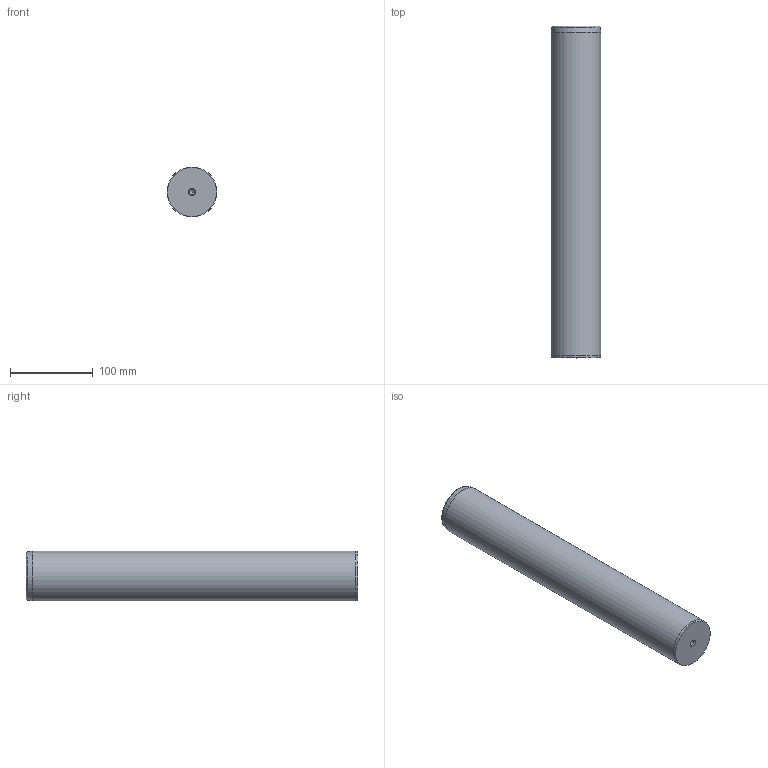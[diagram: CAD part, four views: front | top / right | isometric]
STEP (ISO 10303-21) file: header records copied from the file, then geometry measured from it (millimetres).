
FILE_DESCRIPTION( ( 'STEP AP203' ), '1' );
FILE_NAME( 'D:/Cuma/D14/D14_60400.step', '2003-01-18T23:01:52', ( ' ' ), ( ' ' ), 'XStep 1.0', ' ', ' ' );
FILE_SCHEMA( ( 'CONFIG_CONTROL_DESIGN' ) );
Length unit declared in the file: metre
Products named in the file (1): 1
Bounding box: 60 x 400 x 60 mm (x, y, z)
Volume: 1127941.8 mm3; surface area: 81740.7 mm2
Topology: 1 solids, 1 shells, 14 faces, 29 edges, 17 vertices
Faces by surface type: cone 6, cylinder 5, plane 2, torus 1
Full cylindrical faces by diameter (mm): 6.75 x4, 60 x1
Entity records: 327 total; most frequent: DIRECTION 56, CARTESIAN_POINT 43, AXIS2_PLACEMENT_3D 28, EDGE_LOOP 26, ORIENTED_EDGE 26, FACE_OUTER_BOUND 20, VERTEX_POINT 15, ADVANCED_FACE 14
